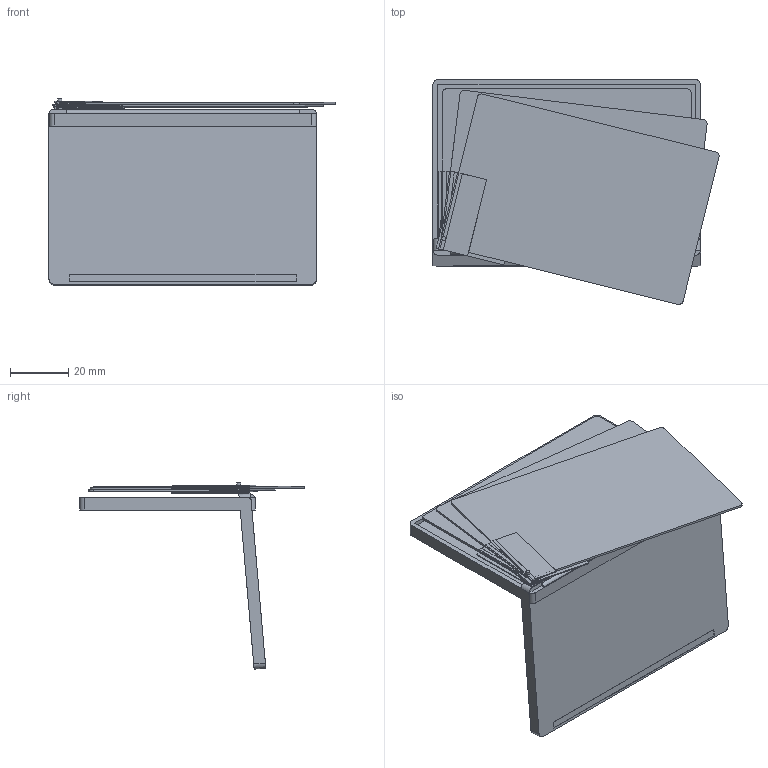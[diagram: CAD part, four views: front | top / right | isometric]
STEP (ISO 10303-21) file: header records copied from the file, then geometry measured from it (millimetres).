
FILE_DESCRIPTION(('Open CASCADE Model'),'2;1');
FILE_NAME('Open CASCADE Shape Model','2026-10-19T11:31:17',('Author'),( 'Open CASCADE'),'Open CASCADE STEP processor 7.7','Open CASCADE 7.7' ,'Unknown');
FILE_SCHEMA(('AUTOMOTIVE_DESIGN { 1 0 10303 214 1 1 1 1 }'));
Length unit declared in the file: millimetre
Products named in the file (1): Open CASCADE STEP translator 7.7 1
Bounding box: 98.37 x 77.29 x 64.06 mm (x, y, z)
Volume: 44656.7 mm3; surface area: 37492.6 mm2
Topology: 1 solids, 1 shells, 194 faces, 567 edges, 378 vertices
Faces by surface type: plane 157, cylinder 37
Full cylindrical faces by diameter (mm): 0.7 x1, 1.4 x1
Entity records: 13589 total; most frequent: CARTESIAN_POINT 2924, DIRECTION 1788, LINE 1171, VECTOR 1171, ORIENTED_EDGE 1134, PCURVE 1134, DEFINITIONAL_REPRESENTATION 1134, EDGE_CURVE 567
